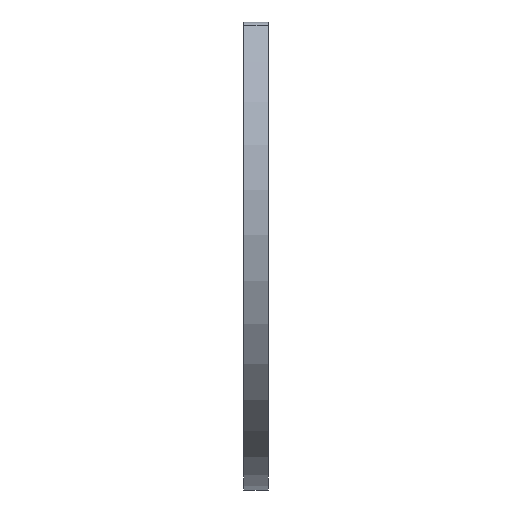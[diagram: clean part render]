
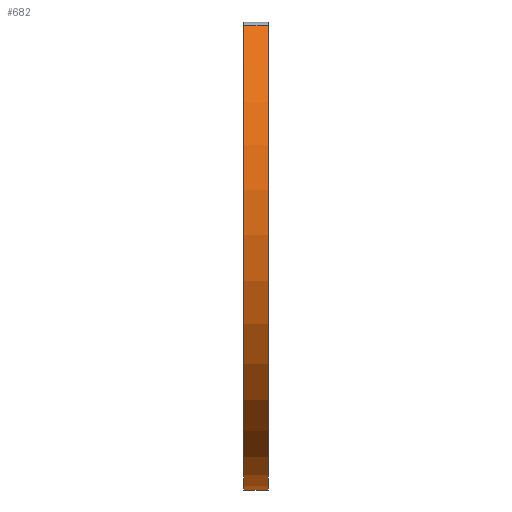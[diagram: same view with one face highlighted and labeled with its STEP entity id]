
A CAD part, left-side view. The second image highlights one B-rep face of the part: STEP entity #682.
In plain terms, the highlighted cylindrical face has radius 22.3 mm (diameter 44.6 mm), a partial arc.
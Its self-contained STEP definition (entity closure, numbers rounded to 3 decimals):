
#4 = EDGE_LOOP ( 'NONE', ( #36, #643, #573, #455 ) ) ;
#15 = DIRECTION ( 'NONE',  ( 0., 0., 1. ) ) ;
#36 = ORIENTED_EDGE ( 'NONE', *, *, #582, .F. ) ;
#58 = VERTEX_POINT ( 'NONE', #366 ) ;
#67 = VECTOR ( 'NONE', #835, 1000. ) ;
#78 = LINE ( 'NONE', #260, #828 ) ;
#85 = CARTESIAN_POINT ( 'NONE',  ( 0., 1., 0. ) ) ;
#156 = CARTESIAN_POINT ( 'NONE',  ( -16.248, -1., 15.274 ) ) ;
#170 = AXIS2_PLACEMENT_3D ( 'NONE', #843, #180, #256 ) ;
#180 = DIRECTION ( 'NONE',  ( 0., 1., 0. ) ) ;
#244 = CARTESIAN_POINT ( 'NONE',  ( -16.248, 1., 15.274 ) ) ;
#249 = VERTEX_POINT ( 'NONE', #156 ) ;
#256 = DIRECTION ( 'NONE',  ( 0., 0., 1. ) ) ;
#260 = CARTESIAN_POINT ( 'NONE',  ( 0., 1., -22.3 ) ) ;
#302 = DIRECTION ( 'NONE',  ( 0., 0., -1. ) ) ;
#306 = AXIS2_PLACEMENT_3D ( 'NONE', #85, #660, #302 ) ;
#331 = EDGE_CURVE ( 'NONE', #621, #58, #78, .T. ) ;
#332 = DIRECTION ( 'NONE',  ( 0., -1., 0. ) ) ;
#342 = CARTESIAN_POINT ( 'NONE',  ( -16.248, 1., 15.274 ) ) ;
#348 = CYLINDRICAL_SURFACE ( 'NONE', #306, 22.3 ) ;
#366 = CARTESIAN_POINT ( 'NONE',  ( 0., -1., -22.3 ) ) ;
#374 = CARTESIAN_POINT ( 'NONE',  ( 0., -1., 0. ) ) ;
#385 = FACE_OUTER_BOUND ( 'NONE', #4, .T. ) ;
#410 = LINE ( 'NONE', #244, #67 ) ;
#433 = VERTEX_POINT ( 'NONE', #342 ) ;
#455 = ORIENTED_EDGE ( 'NONE', *, *, #730, .T. ) ;
#466 = CIRCLE ( 'NONE', #170, 22.3 ) ;
#503 = CIRCLE ( 'NONE', #530, 22.3 ) ;
#518 = CARTESIAN_POINT ( 'NONE',  ( 0., 1., -22.3 ) ) ;
#530 = AXIS2_PLACEMENT_3D ( 'NONE', #374, #670, #15 ) ;
#573 = ORIENTED_EDGE ( 'NONE', *, *, #661, .T. ) ;
#582 = EDGE_CURVE ( 'NONE', #621, #433, #466, .T. ) ;
#621 = VERTEX_POINT ( 'NONE', #518 ) ;
#643 = ORIENTED_EDGE ( 'NONE', *, *, #331, .T. ) ;
#660 = DIRECTION ( 'NONE',  ( 0., -1., 0. ) ) ;
#661 = EDGE_CURVE ( 'NONE', #58, #249, #503, .T. ) ;
#670 = DIRECTION ( 'NONE',  ( 0., 1., 0. ) ) ;
#682 = ADVANCED_FACE ( 'NONE', ( #385 ), #348, .T. ) ;
#730 = EDGE_CURVE ( 'NONE', #249, #433, #410, .T. ) ;
#828 = VECTOR ( 'NONE', #332, 1000. ) ;
#835 = DIRECTION ( 'NONE',  ( 0., 1., 0. ) ) ;
#843 = CARTESIAN_POINT ( 'NONE',  ( 0., 1., 0. ) ) ;
